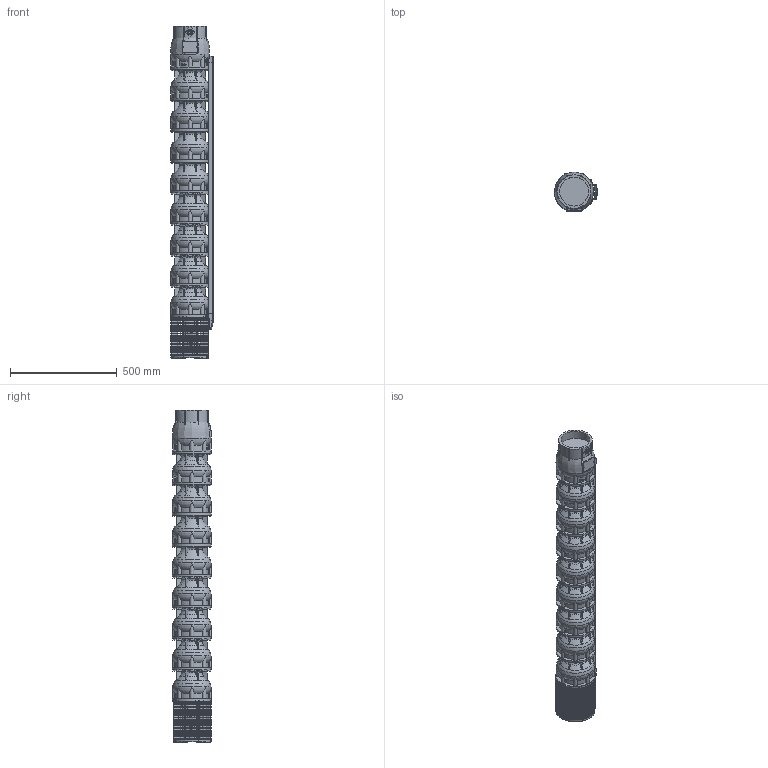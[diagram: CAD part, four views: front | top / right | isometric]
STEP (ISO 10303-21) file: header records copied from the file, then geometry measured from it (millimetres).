
FILE_DESCRIPTION(/* description */ ('Unknown'),/* implementation_level */ '2;1');
FILE_NAME(/* name */ 'VSI134-8_WR_M8-50_DLE',/* time_stamp */ '2023-09-14T13:14:40+02:00',/* author */ ('Unknown'),/* organization */ ('Unknown'),/* preprocessor_version */ 'ST-DEVELOPER v18.102',/* originating_system */ 'Solid Edge',/* authorisation */ 'Unknown');
FILE_SCHEMA (('AUTOMOTIVE_DESIGN {1 0 10303 214 3 1 1}'));
Products named in the file (11): VSI134-8_WR_M8-50_DLE; VSI134_testata; VSI134_diffusore; VSI134_supporto_8×8; VSI134_filtro_A; VSI134_filtro_B; VSI134_terminale_top_copricavo_basso; VSI134_terminale_bottom_copricavo_basso; LOW 134-8; M5X8_UNI7687; VSI134_giunto_8×8
Assembly tree (26 placements, depth 2):
  VSI134-8_WR_M8-50_DLE
    VSI134_testata
    VSI134_diffusore  x8
    VSI134_supporto_8×8
    VSI134_filtro_A
    VSI134_filtro_B
    VSI134_terminale_top_copricavo_basso
    VSI134_terminale_bottom_copricavo_basso
    LOW 134-8
    M5X8_UNI7687  x10
    VSI134_giunto_8×8
Bounding box: 201.57 x 183.52 x 1557 mm (x, y, z)
Volume: 27587300.4 mm3; surface area: 2124385.3 mm2
Topology: 65 solids, 67 shells, 3845 faces, 10865 edges, 7248 vertices
Faces by surface type: plane 2832, cylinder 513, torus 398, cone 59, bspline 31, sphere 12
Full cylindrical faces by diameter (mm): 2.4 x2, 3 x2, 4.2 x16, 5 x10, 5.5 x8, 26 x1, 44 x1, 69 x1, 74 x1, 98 x1, 135.472 x1, 157 x1, 182 x9
Entity records: 85521 total; most frequent: CARTESIAN_POINT 18359, ORIENTED_EDGE 14056, DIRECTION 13482, EDGE_CURVE 7028, VERTEX_POINT 4730, AXIS2_PLACEMENT_3D 4592, LINE 4298, VECTOR 4298
